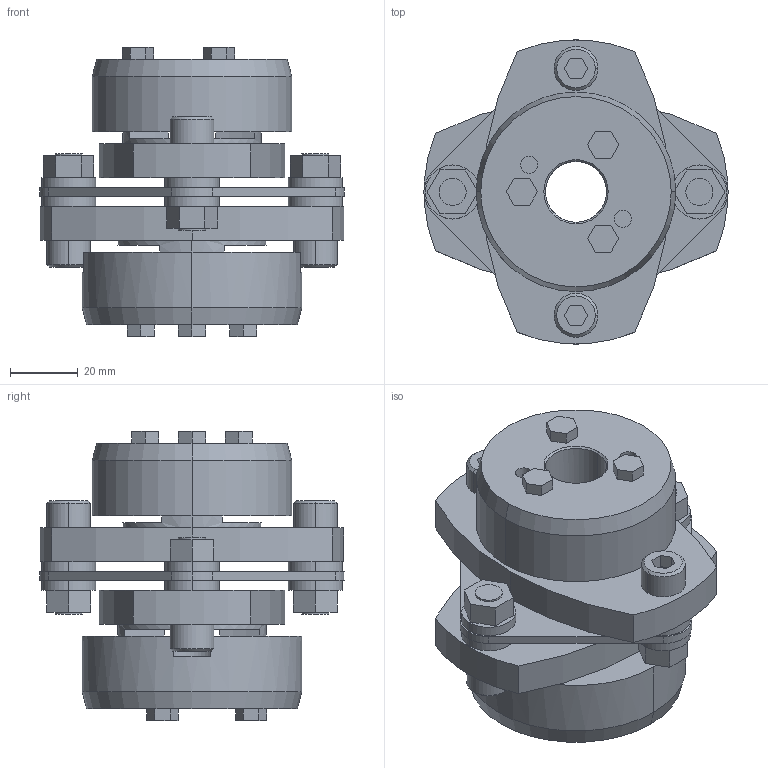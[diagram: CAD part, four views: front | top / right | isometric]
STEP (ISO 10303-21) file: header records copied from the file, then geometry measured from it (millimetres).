
FILE_DESCRIPTION((''),'2;1');
FILE_NAME('LCS-90T7-18×20.stp','2015-11-01T20:09:59',(''),(''),'AutoCAD STEP 2000i','AutoCAD 2000i',', , ');
FILE_SCHEMA(('CONFIG_CONTROL_DESIGN'));
Length unit declared in the file: millimetre
Products named in the file (8): LCS-90T7-19×20; 忣兜1; LC90T7-T020-1; LC90T7-T019-1; LC90T7-T019; LC90-B019-1; LC90-B019; LCS90-ITA
Assembly tree (7 placements, depth 2):
  LCS-90T7-19×20
    忣兜1
    LC90T7-T020-1
    LC90T7-T019-1
    LC90T7-T019
    LC90-B019-1
    LC90-B019
    LCS90-ITA
Bounding box: 90 x 89.94 x 85.5 mm (x, y, z)
Volume: 221192.5 mm3; surface area: 54001.4 mm2
Topology: 1 solids, 1 shells, 236 faces, 580 edges, 380 vertices
Faces by surface type: plane 134, cylinder 82, cone 20
Entity records: 7217 total; most frequent: DIRECTION 1272, CARTESIAN_POINT 1204, ORIENTED_EDGE 1160, EDGE_CURVE 580, AXIS2_PLACEMENT_3D 448, VERTEX_POINT 380, VECTOR 376, LINE 376
